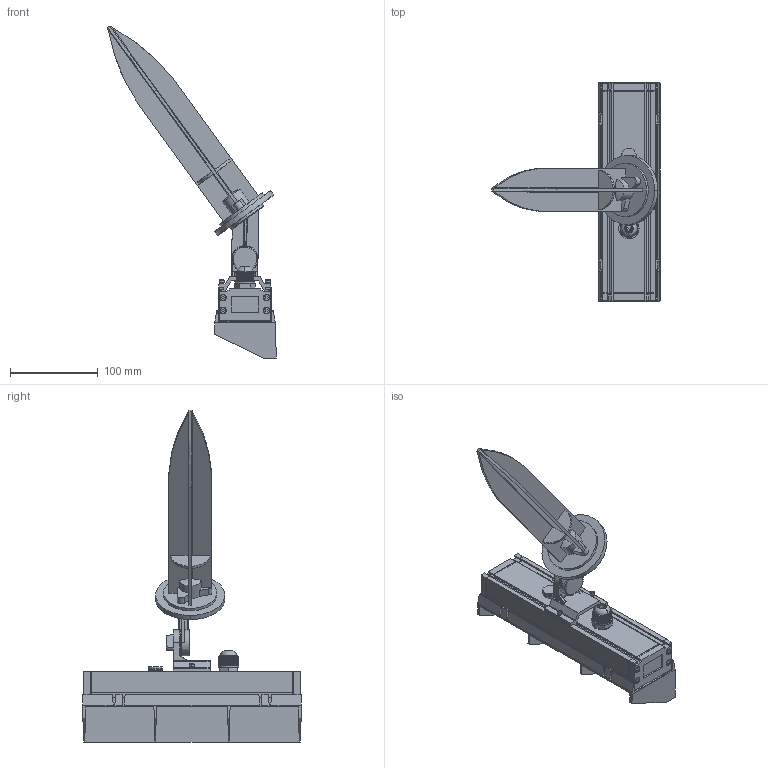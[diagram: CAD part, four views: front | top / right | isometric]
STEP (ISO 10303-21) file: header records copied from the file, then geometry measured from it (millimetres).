
FILE_DESCRIPTION((''),'2;1');
FILE_NAME('B3LA0366_ASM','2020-06-11T',('Administrator'),(''),'PRO/ENGINEER BY PARAMETRIC TECHNOLOGY CORPORATION, 2010480','PRO/ENGINEER BY PARAMETRIC TECHNOLOGY CORPORATION, 2010480','');
FILE_SCHEMA(('CONFIG_CONTROL_DESIGN'));
Products named in the file (23): 6J-HOUSING_93_25; 6J-GLASS_93_24; M-DUANGAI_24; L-RUBBER_24; PCB-LED_24; 6LA-1-A24-1_1_; PG9_2_24; QI_FA; 6LAXIEJIEGUANGZHAO-12-24; M4-10-; ICRFC0406_3; 6J-500_ASM_94_ASM_24_ASM; _7H; 6Q-B_1; 6Q-B_2; 7A-DI_CHA; M4-10; M3-6; PRT0025_1_1_1_59; HUANG_GUAN_M5; ADWTFSD7_7_13; 01_ASM; B3LA0366_ASM
Assembly tree (36 placements, depth 3):
  B3LA0366_ASM
    6J-500_ASM_94_ASM_24_ASM
      6J-HOUSING_93_25
      6J-GLASS_93_24
      M-DUANGAI_24  x2
      L-RUBBER_24  x2
      PCB-LED_24
      6LA-1-A24-1_1_
      PG9_2_24
      QI_FA
      6LAXIEJIEGUANGZHAO-12-24
      M4-10-  x8
      ICRFC0406_3  x3
    01_ASM
      _7H
      6Q-B_1
      6Q-B_2
      7A-DI_CHA
      M4-10  x3
      M3-6  x2
      PRT0025_1_1_1_59
      HUANG_GUAN_M5
      ADWTFSD7_7_13
Bounding box: 192.56 x 250 x 378.95 mm (x, y, z)
Volume: 531479.8 mm3; surface area: 340260.2 mm2
Topology: 34 solids, 34 shells, 3709 faces, 10424 edges, 6837 vertices
Faces by surface type: plane 1932, cylinder 1100, bspline 305, cone 243, revolution 71, torus 39, sphere 14, extrusion 5
Entity records: 117720 total; most frequent: CARTESIAN_POINT 47062, ORIENTED_EDGE 15818, DIRECTION 13126, EDGE_CURVE 7909, VERTEX_POINT 5277, VECTOR 4519, LINE 4514, AXIS2_PLACEMENT_3D 4268
